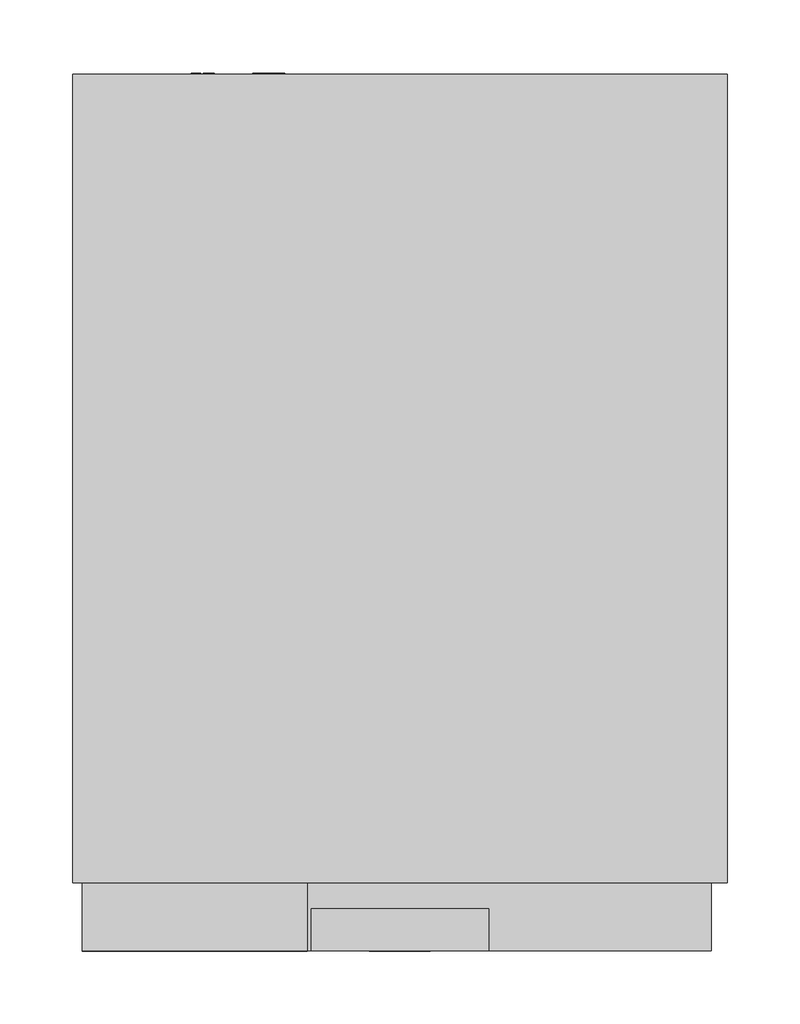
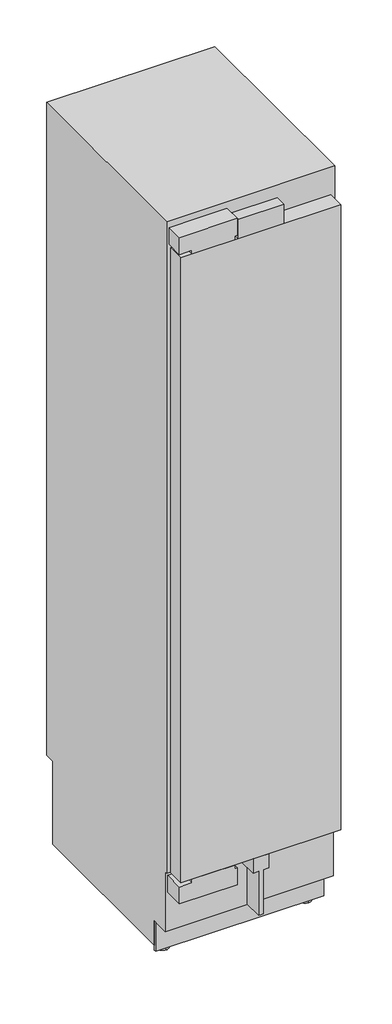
# Not in any storey: 1 proxy.
"""IFC4 building model written with IfcOpenShell, lengths in millimetres."""

import ifcopenshell
import ifcopenshell.guid

model = None  # the IFC model being written
_history = None  # IfcOwnerHistory: only IFC2X3 demands one
_inside = {}  # id of a spatial element -> (the spatial element, [elements in it])
_under = {}  # id of a project, library or spatial element -> (it, [spatial elements below it])
_declared = {}  # id of a project -> (the project, [libraries it declares])
_typed = {}  # id of a type object -> (the type object, [elements of that type])
_made_of = {}  # id of a material, layer set ... -> (it, [elements and type objects made of it])


def new_model(schema):
    """Start an empty IFC model of exactly this schema.

    Asked for "IFC4X3", IfcOpenShell would pick the latest addendum, in which some entities
    have other attributes; the version numbers below select the first issue.
    IFC2X3 requires an IfcOwnerHistory on every rooted entity: one is made here for all.
    """
    global model, _history
    if schema == "IFC4X3":
        model = ifcopenshell.file(schema_version=(4, 3, 0, 0))
    else:
        model = ifcopenshell.file(schema=schema)
    _inside.clear()
    _under.clear()
    _declared.clear()
    _typed.clear()
    _made_of.clear()
    _history = None
    if model.schema == "IFC2X3":
        org = make("IfcOrganization", Name="unknown")
        user = make(
            "IfcPersonAndOrganization",
            ThePerson=make("IfcPerson", FamilyName="unknown"),
            TheOrganization=org,
        )
        app = make(
            "IfcApplication",
            ApplicationDeveloper=org,
            Version="unknown",
            ApplicationFullName="unknown",
            ApplicationIdentifier="unknown",
        )
        _history = make(
            "IfcOwnerHistory",
            OwningUser=user,
            OwningApplication=app,
            ChangeAction="ADDED",
            CreationDate=0,
        )
    return model


def make(cls, **values):
    """One entity of the class cls with the attributes given. An attribute that is None is left unset."""
    return model.create_entity(
        cls, **{name: value for name, value in values.items() if value is not None}
    )


def rooted(cls, **values):
    """An entity with a GlobalId (a new one), such as an element, a storey or a relation."""
    return make(cls, GlobalId=ifcopenshell.guid.new(), OwnerHistory=_history, **values)


def si_unit(unit_type, name, prefix=None):
    """IfcSIUnit, for example si_unit("LENGTHUNIT", "METRE", prefix="MILLI")."""
    return make("IfcSIUnit", UnitType=unit_type, Prefix=prefix, Name=name)


def assignment(units):
    """IfcUnitAssignment: the units of a project."""
    return None if units is None else make("IfcUnitAssignment", Units=units)


def point(xyz):
    """IfcCartesianPoint."""
    return None if xyz is None else make("IfcCartesianPoint", Coordinates=xyz)


def direction(xyz):
    """IfcDirection."""
    return None if xyz is None else make("IfcDirection", DirectionRatios=xyz)


def frame(location, z_axis=None, x_axis=None):
    """IfcAxis2Placement3D, a coordinate frame: its origin and axes. An axis left out is left unset."""
    return make(
        "IfcAxis2Placement3D",
        Location=point(location),
        Axis=direction(z_axis),
        RefDirection=direction(x_axis),
    )


def frame_2d(location, x_axis=None):
    """IfcAxis2Placement2D, a coordinate frame in the plane: its origin and x axis."""
    return make(
        "IfcAxis2Placement2D", Location=point(location), RefDirection=direction(x_axis)
    )


def origin():
    """The frame at (0, 0, 0) with its axes left unset."""
    return frame((0.0, 0.0, 0.0))


def place(relative_to, where):
    """IfcLocalPlacement: puts the frame where relative to a parent placement (None: the world)."""
    return make(
        "IfcLocalPlacement", PlacementRelTo=relative_to, RelativePlacement=where
    )


def context(
    kind, dimensions, precision=None, world=None, true_north=None, identifier=None
):
    """IfcGeometricRepresentationContext, for example the 3D "Model" context."""
    return make(
        "IfcGeometricRepresentationContext",
        ContextIdentifier=identifier,
        ContextType=kind,
        CoordinateSpaceDimension=dimensions,
        Precision=precision,
        WorldCoordinateSystem=world,
        TrueNorth=true_north,
    )


def project(units=None, contexts=None):
    """IfcProject with its units and contexts."""
    return rooted(
        "IfcProject",
        Name="project",
        RepresentationContexts=contexts,
        UnitsInContext=assignment(units),
    )


def spatial(cls, under=None, at=None, **own):
    """A site, building, storey or space (cls), placed at a placement, below another one or the project."""
    s = rooted(cls, ObjectPlacement=at, **own)
    if under is not None:
        _under.setdefault(under.id(), (under, []))[1].append(s)
    return s


def polyline(points):
    """IfcPolyline through the points."""
    return make("IfcPolyline", Points=[point(p) for p in points])


def circle_curve(where, radius):
    """IfcCircle in the frame where."""
    return make("IfcCircle", Position=where, Radius=radius)


def trimmed(basis, trim1, trim2, sense, master):
    """IfcTrimmedCurve: the piece of a basis curve between two trims."""
    return make(
        "IfcTrimmedCurve",
        BasisCurve=basis,
        Trim1=trim1,
        Trim2=trim2,
        SenseAgreement=sense,
        MasterRepresentation=master,
    )


def segment(curve, same_sense, transition):
    """IfcCompositeCurveSegment."""
    return make(
        "IfcCompositeCurveSegment",
        Transition=transition,
        SameSense=same_sense,
        ParentCurve=curve,
    )


def composite_curve(segments, self_intersect=None):
    """IfcCompositeCurve: segments joined end to end."""
    return make("IfcCompositeCurve", Segments=segments, SelfIntersect=self_intersect)


def outline(outer, holes=None, kind="AREA"):
    """IfcArbitraryClosedProfileDef: a profile drawn as a closed curve; with holes, ...WithVoids."""
    if holes is None:
        return make("IfcArbitraryClosedProfileDef", ProfileType=kind, OuterCurve=outer)
    return make(
        "IfcArbitraryProfileDefWithVoids",
        ProfileType=kind,
        OuterCurve=outer,
        InnerCurves=holes,
    )


def extrude(swept, where, along, depth):
    """IfcExtrudedAreaSolid: the profile swept, set in the frame where, extruded along a direction by depth."""
    return make(
        "IfcExtrudedAreaSolid",
        SweptArea=swept,
        Position=where,
        ExtrudedDirection=direction(along),
        Depth=depth,
    )


def shape(context_of_items, identifier, shape_type, items):
    """IfcShapeRepresentation: the items that make up one representation, for example the "Body"."""
    return make(
        "IfcShapeRepresentation",
        ContextOfItems=context_of_items,
        RepresentationIdentifier=identifier,
        RepresentationType=shape_type,
        Items=items,
    )


def source(mapping_origin, context_of_items, identifier, shape_type, items):
    """IfcRepresentationMap: a shape defined once, which mapped items show again and again."""
    return make(
        "IfcRepresentationMap",
        MappingOrigin=mapping_origin,
        MappedRepresentation=shape(context_of_items, identifier, shape_type, items),
    )


def transform(
    local_origin,
    x_axis=None,
    y_axis=None,
    z_axis=None,
    scale=None,
    scale2=None,
    scale3=None,
    uniform=True,
):
    """IfcCartesianTransformationOperator3D, or its non-uniform kind. x_axis, y_axis, z_axis: its Axis1, 2, 3."""
    if uniform:
        return make(
            "IfcCartesianTransformationOperator3D",
            Axis1=direction(x_axis),
            Axis2=direction(y_axis),
            LocalOrigin=point(local_origin),
            Scale=scale,
            Axis3=direction(z_axis),
        )
    return make(
        "IfcCartesianTransformationOperator3DnonUniform",
        Axis1=direction(x_axis),
        Axis2=direction(y_axis),
        LocalOrigin=point(local_origin),
        Scale=scale,
        Axis3=direction(z_axis),
        Scale2=scale2,
        Scale3=scale3,
    )


def mapped(mapping_source, mapping_target):
    """IfcMappedItem: shows the shape of a source again, moved by a transform."""
    return make(
        "IfcMappedItem", MappingSource=mapping_source, MappingTarget=mapping_target
    )


def made_of(thing, what):
    """Note that an element or type object is made of a material, layer set ...; save() writes the relation."""
    if what is not None:
        _made_of.setdefault(what.id(), (what, []))[1].append(thing)
    return thing


def element(
    cls,
    number,
    at=None,
    inside=None,
    cuts=None,
    type_object=None,
    material=None,
    context=None,
    identifier="Body",
    shape_type=None,
    held_by="IfcProductDefinitionShape",
    body=None,
    shapes=None,
    **own,
):
    """One element of the class cls, such as IfcWall. Its Tag is "e" and its number.

    at: its placement. inside: the storey or other place that contains it. cuts: it is an
    opening in that element (IfcRelVoidsElement). A single representation is given by context,
    identifier, shape_type and body (its items); several are given by shapes. held_by: the class
    of the entity that holds the representations. save() writes the other relations.
    """
    e = rooted(cls, Tag="e%d" % number, ObjectPlacement=at, **own)
    if body is not None:
        shapes = [shape(context, identifier, shape_type, body)]
    if shapes is not None:
        e.Representation = make(held_by, Representations=shapes)
    if inside is not None:
        _inside.setdefault(inside.id(), (inside, []))[1].append(e)
    if cuts is not None:
        rooted(
            "IfcRelVoidsElement", RelatingBuildingElement=cuts, RelatedOpeningElement=e
        )
    if type_object is not None:
        _typed.setdefault(type_object.id(), (type_object, []))[1].append(e)
    return made_of(e, material)


def aggregate(whole, parts):
    """IfcRelAggregates: a whole, such as a stair, and the parts it consists of."""
    return rooted("IfcRelAggregates", RelatingObject=whole, RelatedObjects=parts)


def save(model, path):
    """Write the relations noted so far, then the file.

    IfcRelAggregates (storeys below a building ...), IfcRelContainedInSpatialStructure (elements
    in a storey), IfcRelDefinesByType, IfcRelAssociatesMaterial and IfcRelDeclares: one each for
    every whole, place, type object, material and project.
    """
    for whole, parts in _under.values():
        aggregate(whole, parts)
    for where, things in _inside.values():
        rooted(
            "IfcRelContainedInSpatialStructure",
            RelatedElements=things,
            RelatingStructure=where,
        )
    for kind, things in _typed.values():
        rooted("IfcRelDefinesByType", RelatedObjects=things, RelatingType=kind)
    for what, things in _made_of.values():
        rooted("IfcRelAssociatesMaterial", RelatedObjects=things, RelatingMaterial=what)
    for by, libraries in _declared.values():
        rooted("IfcRelDeclares", RelatingContext=by, RelatedDefinitions=libraries)
    model.write(path)


def plane_surface(at):
    """IfcPlane: the flat surface through the origin of the frame at, square to its z axis."""
    return make("IfcPlane", Position=at)


def cylinder_surface(at, radius):
    """IfcCylindricalSurface: all points at the distance radius from the z axis of the frame at."""
    return make("IfcCylindricalSurface", Position=at, Radius=radius)


def advanced_brep(points, edges, surfaces, faces):
    """IfcAdvancedBrep: a solid bounded by faces that lie on surfaces and meet in shared edges.

    An edge is (start, end): straight between two places in points (the first is 0);
    or (start, end, curve); or (start, end, curve, False) where it runs against its curve.
    A face is (place in surfaces, loops), or (place, loops, False) where it looks against
    its surface's normal. A loop lists edges by number (the first is 1), with a minus sign
    where the edge is run from its end to its start. The first loop is the outer one.
    """
    corners = [point(p) for p in points]
    vertices = [make("IfcVertexPoint", VertexGeometry=c) for c in corners]
    made = []
    for start, end, *more in edges:
        made.append(
            make(
                "IfcEdgeCurve",
                EdgeStart=vertices[start],
                EdgeEnd=vertices[end],
                EdgeGeometry=more[0] if more else make("IfcPolyline", Points=[corners[start], corners[end]]),
                SameSense=more[1] if len(more) > 1 else True,
            )
        )
    hull = []
    for where, loops, *sense in faces:
        bounds = []
        for j, loop in enumerate(loops):
            ring = [make("IfcOrientedEdge", EdgeElement=made[abs(k) - 1], Orientation=k > 0) for k in loop]
            bounds.append(
                make(
                    "IfcFaceOuterBound" if j == 0 else "IfcFaceBound",
                    Bound=make("IfcEdgeLoop", EdgeList=ring),
                    Orientation=True,
                )
            )
        hull.append(make("IfcAdvancedFace", Bounds=bounds, FaceSurface=surfaces[where], SameSense=sense[0] if sense else True))
    return make("IfcAdvancedBrep", Outer=make("IfcClosedShell", CfsFaces=hull))


def specialty_equipment_f355906c(model_context):
    return source(origin(), model_context, "Body", "SolidModel", [
        extrude(outline(polyline([(-214.5, 47.0), (214.5, 47.0), (214.5, 0.0), (-214.5, 0.0), (-214.5, 47.0)])), frame((0.0, 0.0, 265.0), z_axis=(0.0, 0.0, 1.0), x_axis=(1.0, 0.0, 0.0)), (0.0, 0.0, 1.0), 1771.0),
        extrude(outline(polyline([(-61.0, 29.0), (61.0, 29.0), (61.0, 0.0), (-61.0, 0.0), (-61.0, 29.0)])), frame((0.0, 0.0, 2036.0), z_axis=(0.0, 0.0, 1.0), x_axis=(1.0, 0.0, 0.0)), (0.0, 0.0, 1.0), 56.0),
        extrude(outline(polyline([(265.0, 21.0), (265.0, 0.0), (265.0, -21.0), (224.0, -21.0), (224.0, -6.5), (99.0, -6.5), (99.0, 0.0), (99.0, 6.5), (224.0, 6.5), (224.0, 21.0), (265.0, 21.0)])), frame((0.0, 0.0, 0.0), z_axis=(0.0, 1.0, 0.0), x_axis=(0.0, 0.0, 1.0)), (0.0, 0.0, 1.0), 54.0),
        extrude(outline(polyline([(519.0, 1998.0), (519.0, 1791.0), (450.0, 1791.0), (422.0, 1867.0), (201.7448904, 1867.0), (157.0, 1939.0), (87.0, 1949.0), (87.0, 1998.0), (519.0, 1998.0)])), frame((-179.5, 0.0, 0.0), z_axis=(1.0, 0.0, 0.0), x_axis=(0.0, 1.0, 0.0)), (0.0, 0.0, 1.0), 359.0),
        extrude(outline(polyline([(196.9886114, 1875.0), (195.809433, 1875.0), (158.6921935, 1934.4), (159.8713719, 1934.4), (196.9886114, 1875.0)])), frame((-69.0, 0.0, 0.0), z_axis=(1.0, 0.0, 0.0), x_axis=(0.0, 1.0, 0.0)), (0.0, 0.0, 1.0), 138.0),
        extrude(outline(polyline([(46.0510837, -89.101717), (37.4134902, -91.1745179), (46.0453554, -93.6868463), (46.0453554, -95.5601414), (37.4089549, -98.0799633), (46.0493903, -100.1581876), (46.0493903, -101.4649805), (36.0005458, -98.7156324), (36.0005458, -97.372208), (44.8261022, -94.6342221), (35.9987467, -92.0620509), (35.9987287, -90.5451466), (46.0510837, -87.800191), (46.0510837, -89.101717)])), frame((0.0, 604.0, 0.0), z_axis=(0.0, 1.0, 0.0), x_axis=(0.0, 0.0, 1.0)), (0.0, 0.0, 1.0), 1.0),
        extrude(outline(polyline([(46.0485238, -80.7401503), (41.1363122, -80.7401503), (46.0468162, -85.884602), (46.0468162, -87.6328316), (41.9156889, -83.3260313), (36.000035, -87.8032231), (36.000035, -86.2795519), (41.0742849, -82.4391666), (39.4525334, -80.7395503), (35.9999292, -80.7395503), (35.9999292, -79.4795491), (46.0485238, -79.4795491), (46.0485238, -80.7401503)])), frame((0.0, 604.0, 0.0), z_axis=(0.0, 1.0, 0.0), x_axis=(0.0, 0.0, 1.0)), (0.0, 0.0, 1.0), 1.0),
        extrude(outline(composite_curve([segment(trimmed(circle_curve(frame_2d((41.0, -90.0)), 7.5), [point((33.5, -90.0))], [point((48.5, -90.0))], False, "CARTESIAN"), True, "CONTINUOUS"), segment(trimmed(circle_curve(frame_2d((41.0, -90.0)), 7.5), [point((48.5, -90.0))], [point((33.5, -90.0))], False, "CARTESIAN"), True, "CONTINUOUS")], self_intersect=False)), frame((0.0, 577.0, 0.0), z_axis=(0.0, 1.0, 0.0), x_axis=(0.0, 0.0, 1.0)), (0.0, 0.0, 1.0), 27.0),
        extrude(outline(polyline([(2095.0, -219.0), (2047.0, -219.0), (2047.0, -185.0), (2036.5, -185.0), (2036.5, -70.0), (2047.0, -70.0), (2047.0, -64.0), (2095.0, -64.0), (2095.0, -219.0)])), frame((0.0, 0.0, 0.0), z_axis=(0.0, 1.0, 0.0), x_axis=(0.0, 0.0, 1.0)), (0.0, 0.0, 1.0), 47.0),
        extrude(outline(polyline([(254.0, -219.0), (206.0, -219.0), (206.0, -64.0), (254.0, -64.0), (254.0, -70.0), (264.0, -70.0), (264.0, -185.0), (254.0, -185.0), (254.0, -219.0)])), frame((0.0, 0.0, 0.0), z_axis=(0.0, 1.0, 0.0), x_axis=(0.0, 0.0, 1.0)), (0.0, 0.0, 1.0), 54.0),
        extrude(outline(polyline([(99.0373308, -135.2645771), (97.7615342, -135.2645771), (97.7615342, -129.3195541), (94.7968516, -129.3195541), (94.7968516, -134.969579), (93.5246295, -134.969579), (93.5246295, -129.3415693), (90.2570046, -129.3415693), (90.2570046, -135.4619689), (88.9546219, -135.4619689), (88.9546219, -128.0443524), (99.0373308, -128.0443524), (99.0373308, -135.2645771)])), frame((0.0, 604.0, 0.0), z_axis=(0.0, 1.0, 0.0), x_axis=(0.0, 0.0, 1.0)), (0.0, 0.0, 1.0), 1.0),
        extrude(outline(polyline([(99.0458, -138.5619704), (90.2663944, -138.5619704), (90.2663944, -143.6145879), (89.0134802, -143.6145879), (89.0134802, -137.3423809), (99.0458, -137.3423809), (99.0458, -138.5619704)])), frame((0.0, 604.0, 0.0), z_axis=(0.0, 1.0, 0.0), x_axis=(0.0, 0.0, 1.0)), (0.0, 0.0, 1.0), 1.0),
        extrude(outline(composite_curve([segment(trimmed(circle_curve(frame_2d((94.0, -135.5)), 7.5), [point((86.5, -135.5))], [point((101.5, -135.5))], False, "CARTESIAN"), True, "CONTINUOUS"), segment(trimmed(circle_curve(frame_2d((94.0, -135.5)), 7.5), [point((101.5, -135.5))], [point((86.5, -135.5))], False, "CARTESIAN"), True, "CONTINUOUS")], self_intersect=False)), frame((0.0, 577.0, 0.0), z_axis=(0.0, 1.0, 0.0), x_axis=(0.0, 0.0, 1.0)), (0.0, 0.0, 1.0), 27.0),
        extrude(outline(polyline([(-225.5, 104.0), (225.5, 104.0), (225.5, 99.0), (-225.5, 99.0), (-225.5, 104.0)])), frame((0.0, 0.0, 14.0), z_axis=(0.0, 0.0, 1.0), x_axis=(1.0, 0.0, 0.0)), (0.0, 0.0, 1.0), 83.0),
        advanced_brep(
        [(-191.5, 139.0, 0.0), (-191.5, 109.0, 0.0), (-191.5, 139.0, 7.0), (-191.5, 109.0, 7.0), (-191.5, 128.7, 7.0), (-191.5, 119.3, 7.0), (-191.5, 128.7, 28.0), (-191.5, 119.3, 28.0)],
        [
            (0, 1, circle_curve(frame((-191.5, 124.0, 0.0), z_axis=(0.0, 0.0, -1.0), x_axis=(1.0, 0.0, 0.0)), 15.0)),
            (1, 0, circle_curve(frame((-191.5, 124.0, 0.0), z_axis=(0.0, 0.0, -1.0), x_axis=(1.0, 0.0, 0.0)), 15.0)),
            (2, 3, circle_curve(frame((-191.5, 124.0, 7.0), z_axis=(0.0, 0.0, 1.0), x_axis=(1.0, 0.0, 0.0)), 15.0)),
            (3, 2, circle_curve(frame((-191.5, 124.0, 7.0), z_axis=(0.0, 0.0, 1.0), x_axis=(1.0, 0.0, 0.0)), 15.0)),
            (4, 5, circle_curve(frame((-191.5, 124.0, 7.0), z_axis=(0.0, 0.0, -1.0), x_axis=(0.0, -1.0, 0.0)), 4.7)),
            (5, 4, circle_curve(frame((-191.5, 124.0, 7.0), z_axis=(0.0, 0.0, -1.0), x_axis=(0.0, -1.0, 0.0)), 4.7)),
            (0, 2),
            (3, 1),
            (6, 7, circle_curve(frame((-191.5, 124.0, 28.0), z_axis=(0.0, 0.0, 1.0), x_axis=(0.0, -1.0, 0.0)), 4.7)),
            (7, 6, circle_curve(frame((-191.5, 124.0, 28.0), z_axis=(0.0, 0.0, 1.0), x_axis=(0.0, -1.0, 0.0)), 4.7)),
            (7, 5),
            (4, 6),
        ],
        [
            plane_surface(frame((-176.5, 124.0, 0.0), z_axis=(0.0, 0.0, -1.0), x_axis=(0.0, -1.0, 0.0))),
            plane_surface(frame((-176.5, 124.0, 7.0), z_axis=(0.0, 0.0, 1.0), x_axis=(0.0, 1.0, 0.0))),
            cylinder_surface(frame((-191.5, 124.0, 7.0), z_axis=(0.0, 0.0, -1.0), x_axis=(1.0, 0.0, 0.0)), 15.0),
            plane_surface(frame((-191.5, 119.3, 28.0), z_axis=(0.0, 0.0, 1.0), x_axis=(1.0, 0.0, 0.0))),
            cylinder_surface(frame((-191.5, 124.0, 28.0), z_axis=(0.0, 0.0, -1.0), x_axis=(0.0, -1.0, 0.0)), 4.7),
        ],
        [
            (0, [[1, 2]]),
            (1, [[3, 4], [5, 6]]),
            (2, [[-1, 7, -4, 8]]),
            (2, [[-2, -8, -3, -7]]),
            (3, [[9, 10]]),
            (4, [[-10, 11, -5, 12]]),
            (4, [[-9, -12, -6, -11]]),
        ],
    ),
        advanced_brep(
        [(191.5, 139.0, 0.0), (191.5, 109.0, 0.0), (191.5, 139.0, 7.0), (191.5, 109.0, 7.0), (191.5, 128.7, 7.0), (191.5, 119.3, 7.0), (191.5, 128.7, 28.0), (191.5, 119.3, 28.0)],
        [
            (0, 1, circle_curve(frame((191.5, 124.0, 0.0), z_axis=(0.0, 0.0, -1.0), x_axis=(1.0, 0.0, 0.0)), 15.0)),
            (1, 0, circle_curve(frame((191.5, 124.0, 0.0), z_axis=(0.0, 0.0, -1.0), x_axis=(1.0, 0.0, 0.0)), 15.0)),
            (2, 3, circle_curve(frame((191.5, 124.0, 7.0), z_axis=(0.0, 0.0, 1.0), x_axis=(1.0, 0.0, 0.0)), 15.0)),
            (3, 2, circle_curve(frame((191.5, 124.0, 7.0), z_axis=(0.0, 0.0, 1.0), x_axis=(1.0, 0.0, 0.0)), 15.0)),
            (4, 5, circle_curve(frame((191.5, 124.0, 7.0), z_axis=(0.0, 0.0, -1.0), x_axis=(0.0, -1.0, 0.0)), 4.7)),
            (5, 4, circle_curve(frame((191.5, 124.0, 7.0), z_axis=(0.0, 0.0, -1.0), x_axis=(0.0, -1.0, 0.0)), 4.7)),
            (0, 2),
            (3, 1),
            (6, 7, circle_curve(frame((191.5, 124.0, 28.0), z_axis=(0.0, 0.0, 1.0), x_axis=(0.0, -1.0, 0.0)), 4.7)),
            (7, 6, circle_curve(frame((191.5, 124.0, 28.0), z_axis=(0.0, 0.0, 1.0), x_axis=(0.0, -1.0, 0.0)), 4.7)),
            (7, 5),
            (4, 6),
        ],
        [
            plane_surface(frame((-176.5, 124.0, 0.0), z_axis=(0.0, 0.0, -1.0), x_axis=(0.0, -1.0, 0.0))),
            plane_surface(frame((-176.5, 124.0, 7.0), z_axis=(0.0, 0.0, 1.0), x_axis=(0.0, 1.0, 0.0))),
            cylinder_surface(frame((191.5, 124.0, 7.0), z_axis=(0.0, 0.0, -1.0), x_axis=(1.0, 0.0, 0.0)), 15.0),
            plane_surface(frame((-191.5, 119.3, 28.0), z_axis=(0.0, 0.0, 1.0), x_axis=(1.0, 0.0, 0.0))),
            cylinder_surface(frame((191.5, 124.0, 28.0), z_axis=(0.0, 0.0, -1.0), x_axis=(0.0, -1.0, 0.0)), 4.7),
        ],
        [
            (0, [[1, 2]]),
            (1, [[3, 4], [5, 6]]),
            (2, [[-1, 7, -4, 8]]),
            (2, [[-2, -8, -3, -7]]),
            (3, [[9, 10]]),
            (4, [[-10, 11, -5, 12]]),
            (4, [[-9, -12, -6, -11]]),
        ],
    ),
        advanced_brep(
        [(225.5, 47.0, 2114.0), (225.5, 47.0, 267.0), (225.5, 54.0, 267.0), (225.5, 54.0, 97.0), (225.5, 104.0, 97.0), (225.5, 104.0, 28.0), (225.5, 577.0, 28.0), (225.5, 577.0, 263.0), (225.5, 604.0, 263.0), (225.5, 604.0, 2114.0), (-225.5, 47.0, 2114.0), (-225.5, 604.0, 2114.0), (-225.5, 604.0, 263.0), (-225.5, 577.0, 263.0), (-225.5, 577.0, 28.0), (-225.5, 104.0, 28.0), (-225.5, 104.0, 97.0), (-225.5, 54.0, 97.0), (-225.5, 54.0, 267.0), (-225.5, 47.0, 267.0), (165.5, 577.0, 28.0), (165.5, 577.0, 14.0), (-165.5, 577.0, 14.0), (-165.5, 577.0, 28.0), (165.5, 104.0, 14.0), (-165.5, 104.0, 14.0), (-165.5, 104.0, 28.0), (165.5, 104.0, 28.0), (179.5, 47.0, 1998.0), (179.5, 47.0, 343.0), (-179.5, 47.0, 343.0), (-179.5, 47.0, 1998.0), (179.5, 519.0, 1998.0), (-179.5, 519.0, 1998.0), (-179.5, 519.0, 343.0), (179.5, 519.0, 343.0), (-184.0, 202.8193473, 28.0), (-203.0, 202.8193473, 28.0), (-203.0, 153.1806527, 28.0), (-184.0, 153.1806527, 28.0), (-203.5, 525.8193473, 28.0), (-203.5, 476.1806527, 28.0), (-187.5, 476.1806527, 28.0), (-187.5, 525.8193473, 28.0), (203.0, 153.1806527, 28.0), (203.0, 202.8193473, 28.0), (184.0, 202.8193473, 28.0), (184.0, 153.1806527, 28.0), (187.5, 525.8193473, 28.0), (187.5, 476.1806527, 28.0), (203.5, 476.1806527, 28.0), (203.5, 525.8193473, 28.0), (-184.0, 203.0, 25.0), (-184.0, 153.0, 25.0), (-203.0, 153.0, 25.0), (-203.0, 203.0, 25.0), (-184.0, 178.0, 25.0), (-203.0, 178.0, 25.0), (203.0, 178.0, 25.0), (203.0, 153.0, 25.0), (203.0, 203.0, 25.0), (184.0, 203.0, 25.0), (184.0, 153.0, 25.0), (184.0, 178.0, 25.0), (-203.5, 526.0, 25.0), (-203.5, 476.0, 25.0), (-203.5, 501.0, 25.0), (-187.5, 526.0, 25.0), (-187.5, 476.0, 25.0), (-187.5, 501.0, 25.0), (187.5, 526.0, 25.0), (187.5, 476.0, 25.0), (187.5, 501.0, 25.0), (203.5, 526.0, 25.0), (203.5, 476.0, 25.0), (203.5, 501.0, 25.0)],
        [
            (0, 1),
            (1, 2),
            (2, 3),
            (3, 4),
            (4, 5),
            (5, 6),
            (6, 7),
            (7, 8),
            (8, 9),
            (9, 0),
            (10, 11),
            (11, 12),
            (12, 13),
            (13, 14),
            (14, 15),
            (15, 16),
            (16, 17),
            (17, 18),
            (18, 19),
            (19, 10),
            (9, 11),
            (10, 0),
            (8, 12),
            (7, 13),
            (6, 20),
            (20, 21),
            (21, 22),
            (22, 23),
            (23, 14),
            (21, 24),
            (24, 25),
            (25, 22),
            (4, 16),
            (15, 26),
            (26, 25),
            (24, 27),
            (27, 5),
            (3, 17),
            (2, 18),
            (1, 19),
            (28, 29),
            (29, 30),
            (30, 31),
            (31, 28),
            (32, 33),
            (33, 34),
            (34, 35),
            (35, 32),
            (35, 29),
            (28, 32),
            (34, 30),
            (33, 31),
            (23, 26),
            (36, 37),
            (37, 38),
            (38, 39),
            (39, 36),
            (40, 41),
            (41, 42),
            (42, 43),
            (43, 40),
            (27, 20),
            (44, 45),
            (45, 46),
            (46, 47),
            (47, 44),
            (48, 49),
            (49, 50),
            (50, 51),
            (51, 48),
            (52, 53, circle_curve(frame((-184.0, 178.0, 25.0), z_axis=(-1.0, 0.0, 0.0), x_axis=(0.0, -1.0, 0.0)), 25.0)),
            (53, 54),
            (54, 55, circle_curve(frame((-203.0, 178.0, 25.0), z_axis=(1.0, 0.0, 0.0), x_axis=(0.0, -1.0, 0.0)), 25.0)),
            (55, 52),
            (53, 39, circle_curve(frame((-184.0, 178.0, 25.0), z_axis=(-1.0, 0.0, 0.0), x_axis=(0.0, -1.0, 0.0)), 25.0)),
            (38, 54, circle_curve(frame((-203.0, 178.0, 25.0), z_axis=(1.0, 0.0, 0.0), x_axis=(0.0, -1.0, 0.0)), 25.0)),
            (55, 37, circle_curve(frame((-203.0, 178.0, 25.0), z_axis=(1.0, 0.0, 0.0), x_axis=(0.0, -1.0, 0.0)), 25.0)),
            (36, 52, circle_curve(frame((-184.0, 178.0, 25.0), z_axis=(-1.0, 0.0, 0.0), x_axis=(0.0, -1.0, 0.0)), 25.0)),
            (52, 56),
            (56, 53),
            (54, 57),
            (57, 55),
            (58, 59),
            (59, 60, circle_curve(frame((203.0, 178.0, 25.0), z_axis=(1.0, 0.0, 0.0), x_axis=(0.0, -1.0, 0.0)), 25.0)),
            (60, 58),
            (60, 45, circle_curve(frame((203.0, 178.0, 25.0), z_axis=(1.0, 0.0, 0.0), x_axis=(0.0, -1.0, 0.0)), 25.0)),
            (44, 59, circle_curve(frame((203.0, 178.0, 25.0), z_axis=(1.0, 0.0, 0.0), x_axis=(0.0, -1.0, 0.0)), 25.0)),
            (61, 62, circle_curve(frame((184.0, 178.0, 25.0), z_axis=(-1.0, 0.0, 0.0), x_axis=(0.0, -1.0, 0.0)), 25.0)),
            (62, 63),
            (63, 61),
            (62, 47, circle_curve(frame((184.0, 178.0, 25.0), z_axis=(-1.0, 0.0, 0.0), x_axis=(0.0, -1.0, 0.0)), 25.0)),
            (46, 61, circle_curve(frame((184.0, 178.0, 25.0), z_axis=(-1.0, 0.0, 0.0), x_axis=(0.0, -1.0, 0.0)), 25.0)),
            (64, 65, circle_curve(frame((-203.5, 501.0, 25.0), z_axis=(-1.0, 0.0, 0.0), x_axis=(0.0, -1.0, 0.0)), 25.0)),
            (65, 66),
            (66, 64),
            (65, 41, circle_curve(frame((-203.5, 501.0, 25.0), z_axis=(-1.0, 0.0, 0.0), x_axis=(0.0, -1.0, 0.0)), 25.0)),
            (40, 64, circle_curve(frame((-203.5, 501.0, 25.0), z_axis=(-1.0, 0.0, 0.0), x_axis=(0.0, -1.0, 0.0)), 25.0)),
            (64, 67),
            (67, 68, circle_curve(frame((-187.5, 501.0, 25.0), z_axis=(-1.0, 0.0, 0.0), x_axis=(0.0, -1.0, 0.0)), 25.0)),
            (68, 65),
            (43, 67, circle_curve(frame((-187.5, 501.0, 25.0), z_axis=(-1.0, 0.0, 0.0), x_axis=(0.0, -1.0, 0.0)), 25.0)),
            (68, 42, circle_curve(frame((-187.5, 501.0, 25.0), z_axis=(-1.0, 0.0, 0.0), x_axis=(0.0, -1.0, 0.0)), 25.0)),
            (67, 69),
            (69, 68),
            (70, 71, circle_curve(frame((187.5, 501.0, 25.0), z_axis=(-1.0, 0.0, 0.0), x_axis=(0.0, -1.0, 0.0)), 25.0)),
            (71, 72),
            (72, 70),
            (71, 49, circle_curve(frame((187.5, 501.0, 25.0), z_axis=(-1.0, 0.0, 0.0), x_axis=(0.0, -1.0, 0.0)), 25.0)),
            (48, 70, circle_curve(frame((187.5, 501.0, 25.0), z_axis=(-1.0, 0.0, 0.0), x_axis=(0.0, -1.0, 0.0)), 25.0)),
            (70, 73),
            (73, 74, circle_curve(frame((203.5, 501.0, 25.0), z_axis=(-1.0, 0.0, 0.0), x_axis=(0.0, -1.0, 0.0)), 25.0)),
            (74, 71),
            (51, 73, circle_curve(frame((203.5, 501.0, 25.0), z_axis=(-1.0, 0.0, 0.0), x_axis=(0.0, -1.0, 0.0)), 25.0)),
            (74, 50, circle_curve(frame((203.5, 501.0, 25.0), z_axis=(-1.0, 0.0, 0.0), x_axis=(0.0, -1.0, 0.0)), 25.0)),
            (73, 75),
            (75, 74),
            (59, 62),
            (61, 60),
        ],
        [
            plane_surface(frame((225.5, 604.0, 2114.0), z_axis=(1.0, 0.0, 0.0), x_axis=(0.0, -1.0, 0.0))),
            plane_surface(frame((-225.5, 604.0, 2114.0), z_axis=(-1.0, 0.0, 0.0), x_axis=(0.0, 1.0, 0.0))),
            plane_surface(frame((-225.5, 47.0, 2114.0), z_axis=(0.0, 0.0, 1.0), x_axis=(1.0, 0.0, 0.0))),
            plane_surface(frame((-225.5, 604.0, 2114.0), z_axis=(0.0, 1.0, 0.0), x_axis=(1.0, 0.0, 0.0))),
            plane_surface(frame((-225.5, 604.0, 263.0), z_axis=(0.0, 0.0, -1.0), x_axis=(1.0, 0.0, 0.0))),
            plane_surface(frame((-225.5, 577.0, 263.0), z_axis=(0.0, 1.0, 0.0), x_axis=(1.0, 0.0, 0.0))),
            plane_surface(frame((-225.5, 577.0, 14.0), z_axis=(0.0, 0.0, -1.0), x_axis=(1.0, 0.0, 0.0))),
            plane_surface(frame((-225.5, 104.0, 14.0), z_axis=(0.0, -1.0, 0.0), x_axis=(1.0, 0.0, 0.0))),
            plane_surface(frame((-225.5, 104.0, 97.0), z_axis=(0.0, 0.0, -1.0), x_axis=(1.0, 0.0, 0.0))),
            plane_surface(frame((-225.5, 54.0, 97.0), z_axis=(0.0, -1.0, 0.0), x_axis=(1.0, 0.0, 0.0))),
            plane_surface(frame((-225.5, 54.0, 267.0), z_axis=(0.0, 0.0, -1.0), x_axis=(1.0, 0.0, 0.0))),
            plane_surface(frame((-225.5, 47.0, 267.0), z_axis=(0.0, -1.0, 0.0), x_axis=(1.0, 0.0, 0.0))),
            plane_surface(frame((179.5, 519.0, 1998.0), z_axis=(0.0, -1.0, 0.0), x_axis=(0.0, 0.0, -1.0))),
            plane_surface(frame((179.5, 519.0, 1998.0), z_axis=(-1.0, 0.0, 0.0), x_axis=(0.0, -1.0, 0.0))),
            plane_surface(frame((179.5, 519.0, 343.0), z_axis=(0.0, 0.0, 1.0), x_axis=(0.0, -1.0, 0.0))),
            plane_surface(frame((-179.5, 519.0, 343.0), z_axis=(1.0, 0.0, 0.0), x_axis=(0.0, -1.0, 0.0))),
            plane_surface(frame((-179.5, 519.0, 1998.0), z_axis=(0.0, 0.0, -1.0), x_axis=(0.0, -1.0, 0.0))),
            plane_surface(frame((-225.5, 604.0, 28.0), z_axis=(0.0, 0.0, -1.0), x_axis=(-1.0, 0.0, 0.0))),
            plane_surface(frame((-165.5, 104.0, 28.0), z_axis=(-1.0, 0.0, 0.0), x_axis=(0.0, 0.0, -1.0))),
            plane_surface(frame((165.5, 604.0, 28.0), z_axis=(1.0, 0.0, 0.0), x_axis=(0.0, 0.0, -1.0))),
            cylinder_surface(frame((-318.1988927, 178.0, 25.0), z_axis=(1.0, 0.0, 0.0), x_axis=(0.0, -1.0, 0.0)), 25.0),
            plane_surface(frame((-184.0, 178.0, 25.0), z_axis=(1.0, 0.0, 0.0), x_axis=(0.0, -1.0, 0.0))),
            plane_surface(frame((-203.0, 178.0, 25.0), z_axis=(-1.0, 0.0, 0.0), x_axis=(0.0, -1.0, 0.0))),
            plane_surface(frame((203.0, 178.0, 25.0), z_axis=(1.0, 0.0, 0.0), x_axis=(0.0, -1.0, 0.0))),
            plane_surface(frame((184.0, 178.0, 25.0), z_axis=(-1.0, 0.0, 0.0), x_axis=(0.0, -1.0, 0.0))),
            plane_surface(frame((-203.5, 501.0, 25.0), z_axis=(-1.0, 0.0, 0.0), x_axis=(0.0, -1.0, 0.0))),
            cylinder_surface(frame((-318.1988927, 501.0, 25.0), z_axis=(1.0, 0.0, 0.0), x_axis=(0.0, -1.0, 0.0)), 25.0),
            plane_surface(frame((-187.5, 501.0, 25.0), z_axis=(1.0, 0.0, 0.0), x_axis=(0.0, -1.0, 0.0))),
            plane_surface(frame((187.5, 501.0, 25.0), z_axis=(-1.0, 0.0, 0.0), x_axis=(0.0, -1.0, 0.0))),
            plane_surface(frame((203.5, 501.0, 25.0), z_axis=(1.0, 0.0, 0.0), x_axis=(0.0, -1.0, 0.0))),
        ],
        [
            (0, [[1, 2, 3, 4, 5, 6, 7, 8, 9, 10]]),
            (1, [[11, 12, 13, 14, 15, 16, 17, 18, 19, 20]]),
            (2, [[-10, 21, -11, 22]]),
            (3, [[-9, 23, -12, -21]]),
            (4, [[-8, 24, -13, -23]]),
            (5, [[-24, -7, 25, 26, 27, 28, 29, -14]]),
            (6, [[-27, 30, 31, 32]]),
            (7, [[33, -16, 34, 35, -31, 36, 37, -5]]),
            (8, [[-4, 38, -17, -33]]),
            (9, [[-3, 39, -18, -38]]),
            (10, [[-2, 40, -19, -39]]),
            (11, [[-1, -22, -20, -40], [41, 42, 43, 44]]),
            (12, [[45, 46, 47, 48]]),
            (13, [[-48, 49, -41, 50]]),
            (14, [[-47, 51, -42, -49]]),
            (15, [[-46, 52, -43, -51]]),
            (16, [[-45, -50, -44, -52]]),
            (17, [[53, -34, -15, -29], [54, 55, 56, 57], [58, 59, 60, 61]]),
            (17, [[62, -25, -6, -37], [63, 64, 65, 66], [67, 68, 69, 70]]),
            (18, [[-53, -28, -32, -35]]),
            (19, [[-62, -36, -30, -26]]),
            (20, [[71, 72, 73, 74]]),
            (20, [[-72, 75, -56, 76]]),
            (20, [[-74, 77, -54, 78]]),
            (21, [[-71, 79, 80]]),
            (21, [[-80, -79, -78, -57, -75]]),
            (22, [[-73, 81, 82]]),
            (22, [[-81, -76, -55, -77, -82]]),
            (23, [[83, 84, 85]]),
            (23, [[-83, -85, 86, -63, 87]]),
            (24, [[88, 89, 90]]),
            (24, [[-89, 91, -65, 92, -90]]),
            (25, [[93, 94, 95]]),
            (25, [[-94, 96, -58, 97, -95]]),
            (26, [[-93, 98, 99, 100]]),
            (26, [[-98, -97, -61, 101]]),
            (26, [[-100, 102, -59, -96]]),
            (27, [[-99, 103, 104]]),
            (27, [[-104, -103, -101, -60, -102]]),
            (28, [[105, 106, 107]]),
            (28, [[-106, 108, -67, 109, -107]]),
            (26, [[-105, 110, 111, 112]]),
            (26, [[-110, -109, -70, 113]]),
            (26, [[-112, 114, -68, -108]]),
            (29, [[-111, 115, 116]]),
            (29, [[-116, -115, -113, -69, -114]]),
            (20, [[-84, 117, -88, 118]]),
            (20, [[-117, -87, -66, -91]]),
            (20, [[-118, -92, -64, -86]]),
        ],
    ),
    ])


model = new_model("IFC4")

# Units and contexts
model_context = context("Model", 3, world=origin())
ifc_project = project(units=[si_unit("LENGTHUNIT", "METRE", prefix="MILLI")], contexts=[model_context])

# Site, building
site = spatial("IfcSite", under=ifc_project)
building = spatial("IfcBuilding", under=site)

# Proxy
placement = place(None, origin())
specialty_equipment_shape = specialty_equipment_f355906c(model_context)
element("IfcBuildingElementProxy", 1, Name="11288000_OER_F2411VI_L : 37241101_OER_11288000_F2411VI_L", ObjectType="11288000_OER_F2411VI_L : 37241101_OER_11288000_F2411VI_L", at=placement, inside=building, context=model_context, shape_type="MappedRepresentation", body=[
    mapped(specialty_equipment_shape, transform((0.0, 0.0, 0.0), x_axis=(1.0, 0.0, 0.0), y_axis=(0.0, 1.0, 0.0), z_axis=(0.0, 0.0, 1.0))),
])

save(model, "model.ifc")
